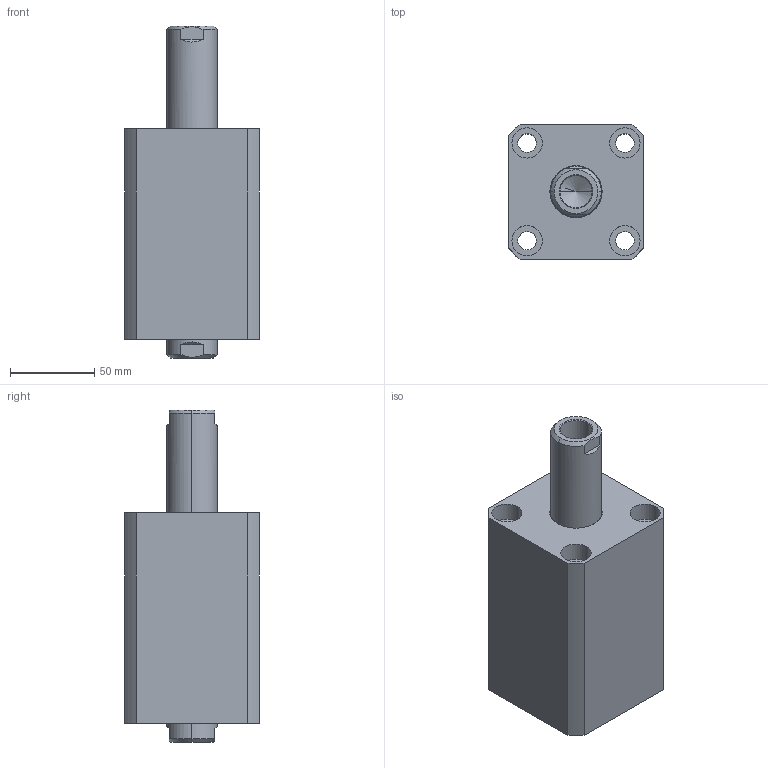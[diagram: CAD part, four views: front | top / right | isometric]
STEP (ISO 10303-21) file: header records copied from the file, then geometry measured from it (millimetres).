
FILE_DESCRIPTION (( 'STEP AP203' ), '1' );
FILE_NAME ('CHTB-SW50-50N.STEP', '2018-05-21T06:17:57', ( '' ), ( '' ), 'SwSTEP 2.0', 'SolidWorks 2015', '' );
FILE_SCHEMA (( 'CONFIG_CONTROL_DESIGN' ));
Length unit declared in the file: millimetre
Products named in the file (4): CHTB-SW50-50N; 掛极SW50-50N; 活塞杆SW50-50N; ヶ裔
Assembly tree (3 placements, depth 2):
  CHTB-SW50-50N
    掛极SW50-50N
    活塞杆SW50-50N
    ヶ裔
Bounding box: 80 x 80 x 197 mm (x, y, z)
Volume: 688984.8 mm3; surface area: 131567.7 mm2
Topology: 3 solids, 3 shells, 225 faces, 528 edges, 331 vertices
Faces by surface type: cylinder 118, plane 46, cone 33, torus 24, bspline 4
Entity records: 9698 total; most frequent: CARTESIAN_POINT 4235, DIRECTION 1104, ORIENTED_EDGE 1040, EDGE_CURVE 520, AXIS2_PLACEMENT_3D 462, VERTEX_POINT 331, EDGE_LOOP 271, CIRCLE 235
